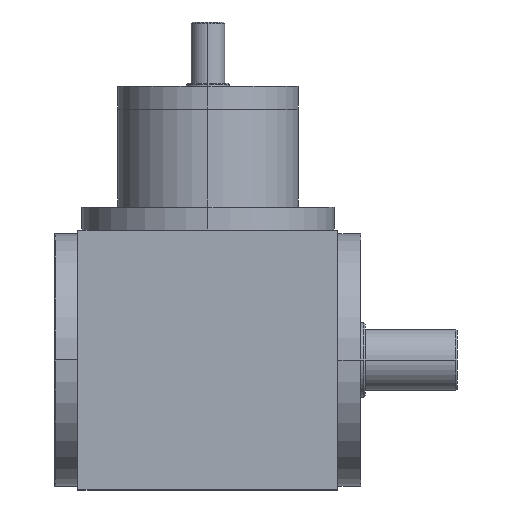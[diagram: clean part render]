
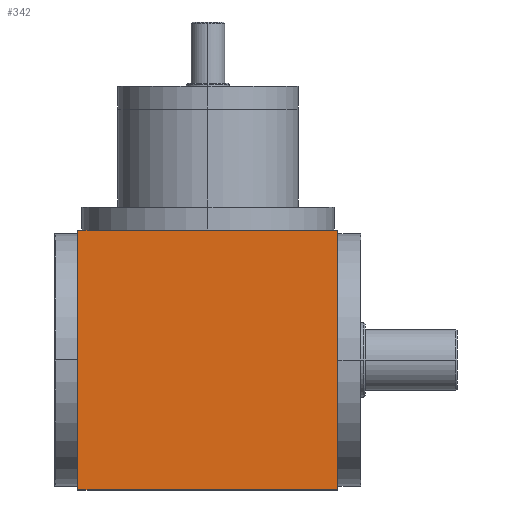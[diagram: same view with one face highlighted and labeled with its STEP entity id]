
A CAD part, front view. The second image highlights one B-rep face of the part: STEP entity #342.
In plain terms, the highlighted planar face has unit normal (0, -1, 0).
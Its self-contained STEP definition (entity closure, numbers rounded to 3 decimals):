
#136 = VERTEX_POINT ( 'NONE', #3944 ) ;
#342 = ADVANCED_FACE ( 'NONE', ( #9219 ), #15899, .F. ) ;
#723 = VERTEX_POINT ( 'NONE', #8220 ) ;
#1076 = DIRECTION ( 'NONE',  ( 0., 0., 1. ) ) ;
#1142 = DIRECTION ( 'NONE',  ( -1., 0., 0. ) ) ;
#1306 = DIRECTION ( 'NONE',  ( 1., 0., 0. ) ) ;
#3019 = VECTOR ( 'NONE', #15847, 1000. ) ;
#3332 = VERTEX_POINT ( 'NONE', #15149 ) ;
#3944 = CARTESIAN_POINT ( 'NONE',  ( 84.9, -85., -84.9 ) ) ;
#4040 = CARTESIAN_POINT ( 'NONE',  ( 85., -85., -84.9 ) ) ;
#4155 = AXIS2_PLACEMENT_3D ( 'NONE', #10275, #17456, #4528 ) ;
#4528 = DIRECTION ( 'NONE',  ( 0., 0., 1. ) ) ;
#4823 = EDGE_CURVE ( 'NONE', #723, #136, #9454, .T. ) ;
#5006 = CARTESIAN_POINT ( 'NONE',  ( 84.9, -85., 85. ) ) ;
#5635 = CARTESIAN_POINT ( 'NONE',  ( -85., -85., 84.9 ) ) ;
#5746 = ORIENTED_EDGE ( 'NONE', *, *, #4823, .T. ) ;
#7247 = EDGE_LOOP ( 'NONE', ( #5746, #8842, #18317, #17351 ) ) ;
#8195 = EDGE_CURVE ( 'NONE', #15713, #3332, #18162, .T. ) ;
#8220 = CARTESIAN_POINT ( 'NONE',  ( -84.9, -85., -84.9 ) ) ;
#8842 = ORIENTED_EDGE ( 'NONE', *, *, #17195, .T. ) ;
#9219 = FACE_OUTER_BOUND ( 'NONE', #7247, .T. ) ;
#9454 = LINE ( 'NONE', #4040, #10347 ) ;
#10275 = CARTESIAN_POINT ( 'NONE',  ( 85., -85., 85. ) ) ;
#10347 = VECTOR ( 'NONE', #1306, 1000. ) ;
#13379 = VECTOR ( 'NONE', #1076, 1000. ) ;
#15149 = CARTESIAN_POINT ( 'NONE',  ( -84.9, -85., 84.9 ) ) ;
#15713 = VERTEX_POINT ( 'NONE', #17805 ) ;
#15847 = DIRECTION ( 'NONE',  ( 0., 0., -1. ) ) ;
#15899 = PLANE ( 'NONE',  #4155 ) ;
#16901 = EDGE_CURVE ( 'NONE', #3332, #723, #17316, .T. ) ;
#17195 = EDGE_CURVE ( 'NONE', #136, #15713, #18206, .T. ) ;
#17316 = LINE ( 'NONE', #18609, #3019 ) ;
#17351 = ORIENTED_EDGE ( 'NONE', *, *, #16901, .T. ) ;
#17456 = DIRECTION ( 'NONE',  ( 0., 1., 0. ) ) ;
#17805 = CARTESIAN_POINT ( 'NONE',  ( 84.9, -85., 84.9 ) ) ;
#18162 = LINE ( 'NONE', #5635, #18604 ) ;
#18206 = LINE ( 'NONE', #5006, #13379 ) ;
#18317 = ORIENTED_EDGE ( 'NONE', *, *, #8195, .T. ) ;
#18604 = VECTOR ( 'NONE', #1142, 1000. ) ;
#18609 = CARTESIAN_POINT ( 'NONE',  ( -84.9, -85., 85. ) ) ;
